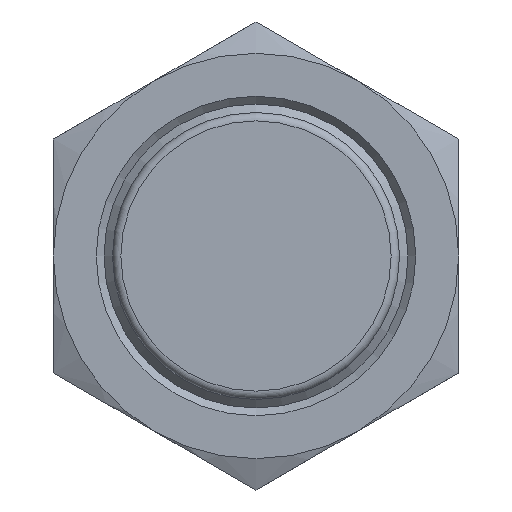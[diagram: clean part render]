
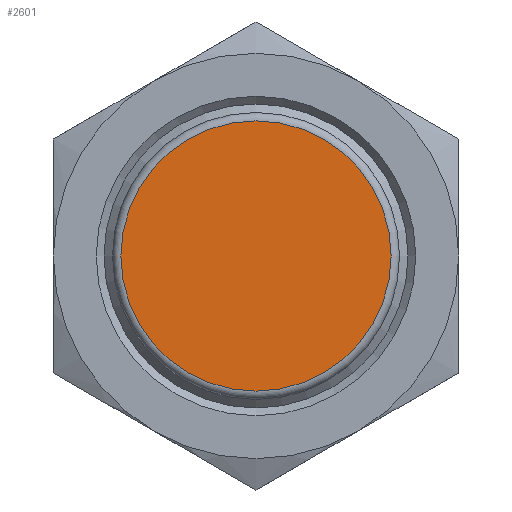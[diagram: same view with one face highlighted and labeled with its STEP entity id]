
A CAD part, left-side view. The second image highlights one B-rep face of the part: STEP entity #2601.
In plain terms, the highlighted planar face has unit normal (-1, 0, 0).
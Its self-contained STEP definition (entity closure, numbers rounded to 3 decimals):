
#2550=CARTESIAN_POINT('',(5.,0.,8.));
#2551=VERTEX_POINT('',#2550);
#2552=CARTESIAN_POINT('',(5.,0.,0.0));
#2553=DIRECTION('',(1.0,0.0,0.0));
#2554=DIRECTION('',(0.0,0.0,-1.0));
#2555=AXIS2_PLACEMENT_3D('',#2552,#2553,#2554);
#2556=CIRCLE('',#2555,8.);
#2557=EDGE_CURVE('',#2551,#2551,#2556,.T.);
#2593=CARTESIAN_POINT('',(5.,0.,0.0));
#2594=DIRECTION('',(1.0,0.0,0.0));
#2595=DIRECTION('',(0.0,0.0,-1.0));
#2596=AXIS2_PLACEMENT_3D('',#2593,#2594,#2595);
#2597=PLANE('',#2596);
#2598=ORIENTED_EDGE('',*,*,#2557,.F.);
#2599=EDGE_LOOP('',(#2598));
#2600=FACE_OUTER_BOUND('',#2599,.T.);
#2601=ADVANCED_FACE('',(#2600),#2597,.F.);
